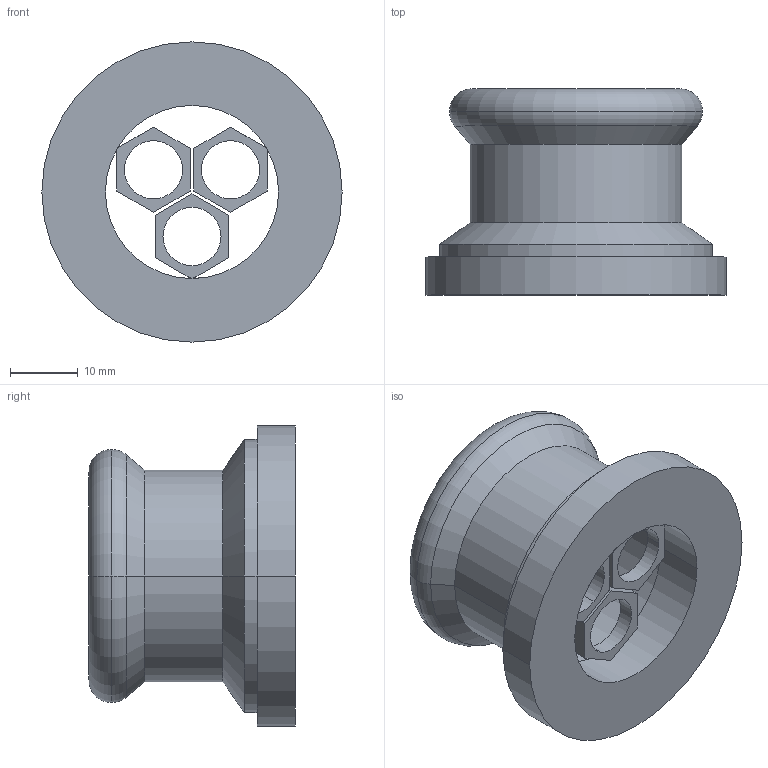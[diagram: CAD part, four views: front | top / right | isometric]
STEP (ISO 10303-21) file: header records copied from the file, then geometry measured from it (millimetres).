
FILE_DESCRIPTION(('OneSpaceDesigner STEP Export'),'2;1');
FILE_NAME('R2736 28x1 1-2.stp','2010-06-10T14:07:07',(''),(''),'OneSpace Designer STEP processor for AP214 (Solid Model)','OneSpace Modeling 15.00A 14-Mar-2007 (C) CoCreate Software GmbH','');
FILE_SCHEMA(('AUTOMOTIVE_DESIGN { 1 0 10303 214 1 1 1 1 }'));
Length unit declared in the file: millimetre
Products named in the file (1): R2736_28x1.1-2
Bounding box: 44.4 x 30.5 x 44.4 mm (x, y, z)
Volume: 13382.9 mm3; surface area: 8990.1 mm2
Topology: 1 solids, 1 shells, 61 faces, 149 edges, 96 vertices
Faces by surface type: plane 32, cylinder 21, torus 4, cone 4
Entity records: 1629 total; most frequent: ORIENTED_EDGE 298, CARTESIAN_POINT 265, DIRECTION 247, EDGE_CURVE 149, VERTEX_POINT 96, VECTOR 91, LINE 91, AXIS2_PLACEMENT_3D 78
